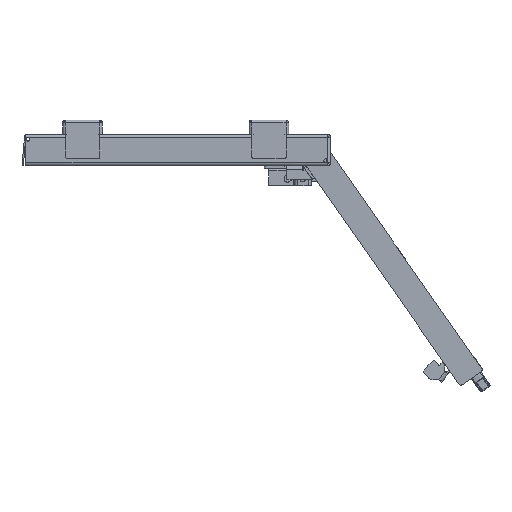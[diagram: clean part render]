
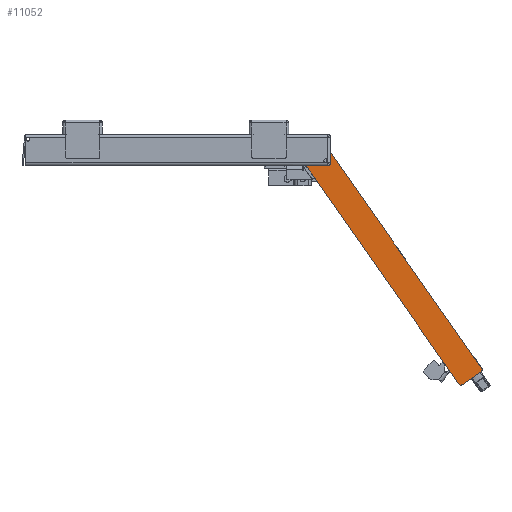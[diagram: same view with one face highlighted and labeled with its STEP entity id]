
A CAD part, left-side view. The second image highlights one B-rep face of the part: STEP entity #11052.
In plain terms, the highlighted planar face has unit normal (-1, 0, 0) as drawn and (0, -1, 0) by its records, which use the part's own axes.
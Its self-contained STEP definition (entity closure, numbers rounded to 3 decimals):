
#32 = CIRCLE ( 'NONE', #43132, 5. ) ;
#172 = AXIS2_PLACEMENT_3D ( 'NONE', #54422, #15003, #54692 ) ;
#489 = VERTEX_POINT ( 'NONE', #24058 ) ;
#827 = VERTEX_POINT ( 'NONE', #24067 ) ;
#974 = AXIS2_PLACEMENT_3D ( 'NONE', #37998, #29354, #37399 ) ;
#1290 = DIRECTION ( 'NONE',  ( 0., -1., 0. ) ) ;
#2380 = DIRECTION ( 'NONE',  ( -1., 0., 0. ) ) ;
#3950 = CARTESIAN_POINT ( 'NONE',  ( -61.385, 43.75, 207.343 ) ) ;
#4178 = CARTESIAN_POINT ( 'NONE',  ( 277.687, 43.75, -323.11 ) ) ;
#4406 = VERTEX_POINT ( 'NONE', #44521 ) ;
#4865 = DIRECTION ( 'NONE',  ( 0., -1., 0. ) ) ;
#5048 = ORIENTED_EDGE ( 'NONE', *, *, #10784, .T. ) ;
#9597 = VERTEX_POINT ( 'NONE', #53472 ) ;
#9878 = FACE_OUTER_BOUND ( 'NONE', #35892, .T. ) ;
#10261 = AXIS2_PLACEMENT_3D ( 'NONE', #23115, #1290, #18798 ) ;
#10784 = EDGE_CURVE ( 'NONE', #32156, #4406, #30046, .T. ) ;
#11052 = ADVANCED_FACE ( 'NONE', ( #49260, #9878 ), #27419, .T. ) ;
#12600 = ORIENTED_EDGE ( 'NONE', *, *, #24103, .T. ) ;
#13968 = CIRCLE ( 'NONE', #23147, 5. ) ;
#14006 = ORIENTED_EDGE ( 'NONE', *, *, #37173, .T. ) ;
#14917 = ORIENTED_EDGE ( 'NONE', *, *, #52814, .T. ) ;
#15003 = DIRECTION ( 'NONE',  ( 0., -1., 0. ) ) ;
#15616 = CIRCLE ( 'NONE', #974, 10.75 ) ;
#15865 = CARTESIAN_POINT ( 'NONE',  ( -51.977, 43.75, 230.233 ) ) ;
#16664 = CIRCLE ( 'NONE', #172, 25. ) ;
#16943 = CARTESIAN_POINT ( 'NONE',  ( 325.198, 43.75, -289.842 ) ) ;
#18030 = DIRECTION ( 'NONE',  ( 0., 0., -1. ) ) ;
#18798 = DIRECTION ( 'NONE',  ( 0., 0., -1. ) ) ;
#20729 = VERTEX_POINT ( 'NONE', #39356 ) ;
#21169 = ORIENTED_EDGE ( 'NONE', *, *, #46354, .T. ) ;
#21347 = CARTESIAN_POINT ( 'NONE',  ( -99.343, 43.75, 206.627 ) ) ;
#21938 = DIRECTION ( 'NONE',  ( 0.574, 0., -0.819 ) ) ;
#22149 = VECTOR ( 'NONE', #47294, 1000. ) ;
#23115 = CARTESIAN_POINT ( 'NONE',  ( -87.054, 43.75, 215.231 ) ) ;
#23147 = AXIS2_PLACEMENT_3D ( 'NONE', #39281, #30926, #52504 ) ;
#23733 = CIRCLE ( 'NONE', #43040, 5. ) ;
#24058 = CARTESIAN_POINT ( 'NONE',  ( -51.977, 43.75, 230.233 ) ) ;
#24067 = CARTESIAN_POINT ( 'NONE',  ( 277.687, 43.75, -328.11 ) ) ;
#24103 = EDGE_CURVE ( 'NONE', #4406, #30903, #23733, .T. ) ;
#24176 = CARTESIAN_POINT ( 'NONE',  ( -87.054, 43.75, 215.231 ) ) ;
#25602 = VERTEX_POINT ( 'NONE', #21347 ) ;
#25876 = LINE ( 'NONE', #16943, #29393 ) ;
#27419 = PLANE ( 'NONE',  #10261 ) ;
#27820 = CARTESIAN_POINT ( 'NONE',  ( 280.555, 43.75, -327.206 ) ) ;
#29152 = CARTESIAN_POINT ( 'NONE',  ( -61.385, 43.75, 218.093 ) ) ;
#29354 = DIRECTION ( 'NONE',  ( 0., 1., 0. ) ) ;
#29393 = VECTOR ( 'NONE', #43410, 1000. ) ;
#30046 = LINE ( 'NONE', #30353, #22149 ) ;
#30104 = ORIENTED_EDGE ( 'NONE', *, *, #52913, .T. ) ;
#30207 = EDGE_CURVE ( 'NONE', #37972, #25602, #55330, .T. ) ;
#30353 = CARTESIAN_POINT ( 'NONE',  ( 280.555, 43.75, -327.206 ) ) ;
#30903 = VERTEX_POINT ( 'NONE', #53675 ) ;
#30921 = DIRECTION ( 'NONE',  ( 0., 1., 0. ) ) ;
#30926 = DIRECTION ( 'NONE',  ( 0., -1., 0. ) ) ;
#31173 = EDGE_CURVE ( 'NONE', #55167, #41036, #43492, .T. ) ;
#31199 = DIRECTION ( 'NONE',  ( 0., 0., 1. ) ) ;
#31471 = ORIENTED_EDGE ( 'NONE', *, *, #30207, .T. ) ;
#32156 = VERTEX_POINT ( 'NONE', #27820 ) ;
#35196 = DIRECTION ( 'NONE',  ( 0., 0., -1. ) ) ;
#35326 = EDGE_CURVE ( 'NONE', #41036, #55167, #15616, .T. ) ;
#35892 = EDGE_LOOP ( 'NONE', ( #31471, #14006, #55511, #49267, #5048, #12600, #21169, #30104, #14917 ) ) ;
#36516 = ORIENTED_EDGE ( 'NONE', *, *, #35326, .T. ) ;
#36838 = VECTOR ( 'NONE', #2380, 1000. ) ;
#37173 = EDGE_CURVE ( 'NONE', #25602, #9597, #39505, .T. ) ;
#37399 = DIRECTION ( 'NONE',  ( 0., 0., 1. ) ) ;
#37708 = DIRECTION ( 'NONE',  ( 0., -1., 0. ) ) ;
#37972 = VERTEX_POINT ( 'NONE', #38222 ) ;
#37998 = CARTESIAN_POINT ( 'NONE',  ( -61.385, 43.75, 207.343 ) ) ;
#38222 = CARTESIAN_POINT ( 'NONE',  ( -87.054, 43.75, 230.233 ) ) ;
#39281 = CARTESIAN_POINT ( 'NONE',  ( 277.687, 43.75, -323.11 ) ) ;
#39356 = CARTESIAN_POINT ( 'NONE',  ( -31.498, 43.75, 219.572 ) ) ;
#39505 = LINE ( 'NONE', #44354, #40388 ) ;
#39522 = DIRECTION ( 'NONE',  ( 0., -1., 0. ) ) ;
#40326 = CARTESIAN_POINT ( 'NONE',  ( -61.385, 43.75, 196.593 ) ) ;
#40367 = EDGE_CURVE ( 'NONE', #827, #32156, #13968, .T. ) ;
#40388 = VECTOR ( 'NONE', #21938, 1000. ) ;
#41036 = VERTEX_POINT ( 'NONE', #40326 ) ;
#43040 = AXIS2_PLACEMENT_3D ( 'NONE', #44214, #4865, #18030 ) ;
#43132 = AXIS2_PLACEMENT_3D ( 'NONE', #4178, #39522, #35196 ) ;
#43410 = DIRECTION ( 'NONE',  ( -0.574, 0., 0.819 ) ) ;
#43492 = CIRCLE ( 'NONE', #48984, 10.75 ) ;
#43971 = EDGE_CURVE ( 'NONE', #9597, #827, #32, .T. ) ;
#44214 = CARTESIAN_POINT ( 'NONE',  ( 321.102, 43.75, -292.71 ) ) ;
#44354 = CARTESIAN_POINT ( 'NONE',  ( -99.343, 43.75, 206.627 ) ) ;
#44521 = CARTESIAN_POINT ( 'NONE',  ( 323.97, 43.75, -296.806 ) ) ;
#44709 = ORIENTED_EDGE ( 'NONE', *, *, #31173, .T. ) ;
#44910 = LINE ( 'NONE', #15865, #36838 ) ;
#46354 = EDGE_CURVE ( 'NONE', #30903, #20729, #25876, .T. ) ;
#47294 = DIRECTION ( 'NONE',  ( 0.819, 0., 0.574 ) ) ;
#48984 = AXIS2_PLACEMENT_3D ( 'NONE', #3950, #30921, #31199 ) ;
#49260 = FACE_BOUND ( 'NONE', #55065, .T. ) ;
#49267 = ORIENTED_EDGE ( 'NONE', *, *, #40367, .T. ) ;
#49818 = AXIS2_PLACEMENT_3D ( 'NONE', #24176, #37708, #50636 ) ;
#50636 = DIRECTION ( 'NONE',  ( 0., 0., -1. ) ) ;
#52504 = DIRECTION ( 'NONE',  ( 0., 0., -1. ) ) ;
#52814 = EDGE_CURVE ( 'NONE', #489, #37972, #44910, .T. ) ;
#52913 = EDGE_CURVE ( 'NONE', #20729, #489, #16664, .T. ) ;
#53472 = CARTESIAN_POINT ( 'NONE',  ( 273.591, 43.75, -325.978 ) ) ;
#53675 = CARTESIAN_POINT ( 'NONE',  ( 325.198, 43.75, -289.842 ) ) ;
#54422 = CARTESIAN_POINT ( 'NONE',  ( -51.977, 43.75, 205.233 ) ) ;
#54692 = DIRECTION ( 'NONE',  ( 0., 0., -1. ) ) ;
#55065 = EDGE_LOOP ( 'NONE', ( #44709, #36516 ) ) ;
#55167 = VERTEX_POINT ( 'NONE', #29152 ) ;
#55330 = CIRCLE ( 'NONE', #49818, 15.001 ) ;
#55511 = ORIENTED_EDGE ( 'NONE', *, *, #43971, .T. ) ;
